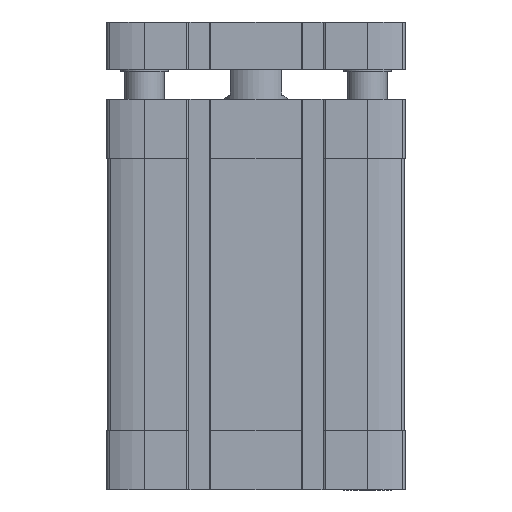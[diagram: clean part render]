
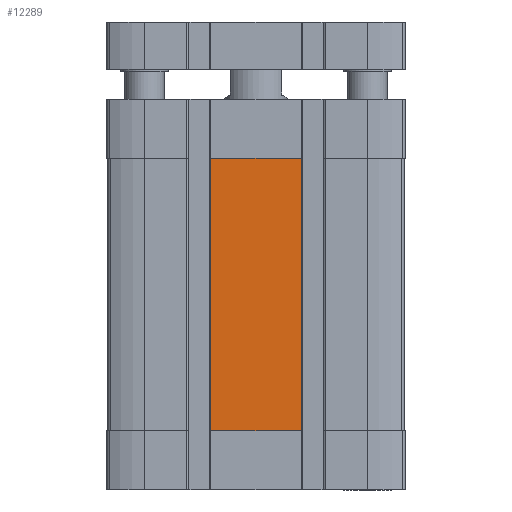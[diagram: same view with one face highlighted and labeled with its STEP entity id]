
A CAD part, left-side view. The second image highlights one B-rep face of the part: STEP entity #12289.
In plain terms, the highlighted planar face has unit normal (-1, 0, 0) as drawn and (0, 1, 0) by its records, which use the part's own axes.
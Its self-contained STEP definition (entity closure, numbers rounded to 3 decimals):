
#412 = DIRECTION ( 'NONE',  ( 0., 0., -1. ) ) ;
#875 = EDGE_CURVE ( 'NONE', #21300, #12003, #22544, .T. ) ;
#1463 = DIRECTION ( 'NONE',  ( 0., 0., 1. ) ) ;
#3011 = ORIENTED_EDGE ( 'NONE', *, *, #10021, .T. ) ;
#3238 = CARTESIAN_POINT ( 'NONE',  ( -11.4, 37.5, -84. ) ) ;
#3635 = CARTESIAN_POINT ( 'NONE',  ( 11.4, 37.5, -84. ) ) ;
#3791 = ORIENTED_EDGE ( 'NONE', *, *, #875, .T. ) ;
#4434 = FACE_OUTER_BOUND ( 'NONE', #22266, .T. ) ;
#4698 = ORIENTED_EDGE ( 'NONE', *, *, #14072, .T. ) ;
#5180 = CARTESIAN_POINT ( 'NONE',  ( 0., 37.5, -15. ) ) ;
#6005 = VERTEX_POINT ( 'NONE', #11603 ) ;
#6731 = AXIS2_PLACEMENT_3D ( 'NONE', #3635, #17975, #7236 ) ;
#7236 = DIRECTION ( 'NONE',  ( 0., 0., 1. ) ) ;
#7278 = VERTEX_POINT ( 'NONE', #17914 ) ;
#8075 = VECTOR ( 'NONE', #8862, 1000. ) ;
#8837 = VECTOR ( 'NONE', #412, 1000. ) ;
#8862 = DIRECTION ( 'NONE',  ( -1., 0., 0. ) ) ;
#9389 = VECTOR ( 'NONE', #23065, 1000. ) ;
#10021 = EDGE_CURVE ( 'NONE', #12003, #7278, #17623, .T. ) ;
#11603 = CARTESIAN_POINT ( 'NONE',  ( -11.4, 37.5, -15. ) ) ;
#12003 = VERTEX_POINT ( 'NONE', #19903 ) ;
#12289 = ADVANCED_FACE ( 'NONE', ( #4434 ), #16198, .T. ) ;
#14035 = EDGE_CURVE ( 'NONE', #7278, #6005, #20554, .T. ) ;
#14072 = EDGE_CURVE ( 'NONE', #6005, #21300, #18901, .T. ) ;
#16198 = PLANE ( 'NONE',  #6731 ) ;
#17623 = LINE ( 'NONE', #19564, #8075 ) ;
#17914 = CARTESIAN_POINT ( 'NONE',  ( -11.4, 37.5, -84. ) ) ;
#17975 = DIRECTION ( 'NONE',  ( 0., 1., 0. ) ) ;
#18485 = ORIENTED_EDGE ( 'NONE', *, *, #14035, .T. ) ;
#18901 = LINE ( 'NONE', #5180, #9389 ) ;
#19564 = CARTESIAN_POINT ( 'NONE',  ( 11.4, 37.5, -84. ) ) ;
#19903 = CARTESIAN_POINT ( 'NONE',  ( 11.4, 37.5, -84. ) ) ;
#19992 = VECTOR ( 'NONE', #1463, 1000. ) ;
#20554 = LINE ( 'NONE', #3238, #19992 ) ;
#21300 = VERTEX_POINT ( 'NONE', #21939 ) ;
#21754 = CARTESIAN_POINT ( 'NONE',  ( 11.4, 37.5, -84. ) ) ;
#21939 = CARTESIAN_POINT ( 'NONE',  ( 11.4, 37.5, -15. ) ) ;
#22266 = EDGE_LOOP ( 'NONE', ( #3011, #18485, #4698, #3791 ) ) ;
#22544 = LINE ( 'NONE', #21754, #8837 ) ;
#23065 = DIRECTION ( 'NONE',  ( 1., 0., 0. ) ) ;
